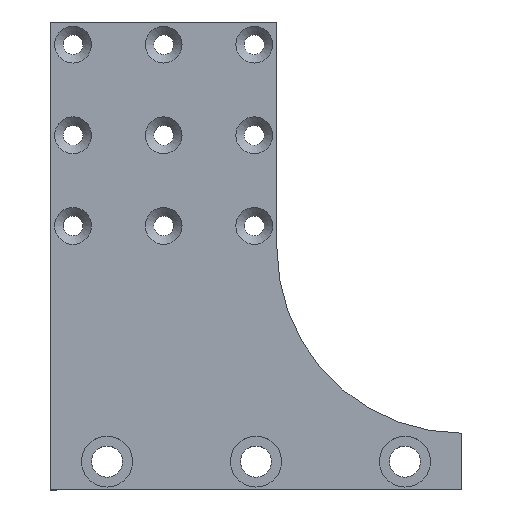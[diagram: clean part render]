
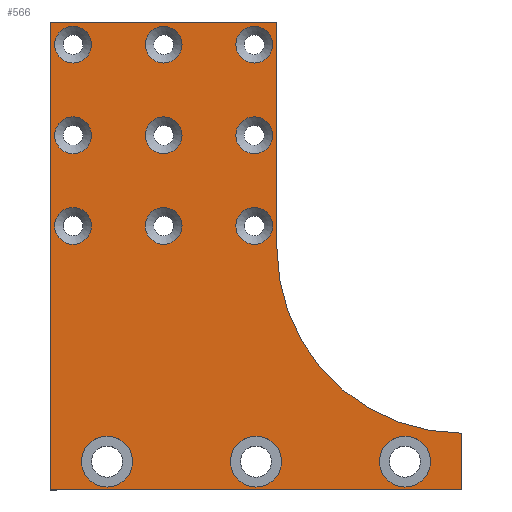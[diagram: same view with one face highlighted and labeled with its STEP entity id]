
A CAD part, top view. The second image highlights one B-rep face of the part: STEP entity #566.
In plain terms, the highlighted planar face has unit normal (0, 0, 1).
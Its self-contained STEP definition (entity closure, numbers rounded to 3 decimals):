
#15=LINE('',#913,#31);
#16=LINE('',#915,#32);
#17=LINE('',#917,#33);
#18=LINE('',#919,#34);
#19=LINE('',#922,#35);
#31=VECTOR('',#736,10.);
#32=VECTOR('',#737,10.);
#33=VECTOR('',#738,10.);
#34=VECTOR('',#739,10.);
#35=VECTOR('',#742,10.);
#63=FACE_BOUND('',#185,.T.);
#64=FACE_BOUND('',#186,.T.);
#65=FACE_BOUND('',#187,.T.);
#66=FACE_BOUND('',#188,.T.);
#67=FACE_BOUND('',#189,.T.);
#68=FACE_BOUND('',#190,.T.);
#69=FACE_BOUND('',#191,.T.);
#70=FACE_BOUND('',#192,.T.);
#71=FACE_BOUND('',#193,.T.);
#72=FACE_BOUND('',#194,.T.);
#73=FACE_BOUND('',#195,.T.);
#74=FACE_BOUND('',#196,.T.);
#138=FACE_OUTER_BOUND('',#184,.T.);
#184=EDGE_LOOP('',(#439,#440,#441,#442,#443,#444));
#185=EDGE_LOOP('',(#445));
#186=EDGE_LOOP('',(#446));
#187=EDGE_LOOP('',(#447));
#188=EDGE_LOOP('',(#448));
#189=EDGE_LOOP('',(#449));
#190=EDGE_LOOP('',(#450));
#191=EDGE_LOOP('',(#451));
#192=EDGE_LOOP('',(#452));
#193=EDGE_LOOP('',(#453));
#194=EDGE_LOOP('',(#454));
#195=EDGE_LOOP('',(#455));
#196=EDGE_LOOP('',(#456));
#264=CIRCLE('',#609,4.5);
#267=CIRCLE('',#614,4.5);
#270=CIRCLE('',#619,4.5);
#274=CIRCLE('',#625,3.25);
#275=CIRCLE('',#627,32.609);
#276=CIRCLE('',#628,3.25);
#277=CIRCLE('',#629,3.25);
#278=CIRCLE('',#630,3.25);
#279=CIRCLE('',#631,3.25);
#280=CIRCLE('',#632,3.25);
#281=CIRCLE('',#633,3.25);
#282=CIRCLE('',#634,3.25);
#283=CIRCLE('',#635,3.25);
#309=VERTEX_POINT('',#882);
#312=VERTEX_POINT('',#890);
#315=VERTEX_POINT('',#898);
#319=VERTEX_POINT('',#908);
#320=VERTEX_POINT('',#911);
#321=VERTEX_POINT('',#912);
#322=VERTEX_POINT('',#914);
#323=VERTEX_POINT('',#916);
#324=VERTEX_POINT('',#918);
#325=VERTEX_POINT('',#920);
#326=VERTEX_POINT('',#923);
#327=VERTEX_POINT('',#925);
#328=VERTEX_POINT('',#927);
#329=VERTEX_POINT('',#929);
#330=VERTEX_POINT('',#931);
#331=VERTEX_POINT('',#933);
#332=VERTEX_POINT('',#935);
#333=VERTEX_POINT('',#937);
#364=EDGE_CURVE('',#309,#309,#264,.T.);
#367=EDGE_CURVE('',#312,#312,#267,.T.);
#370=EDGE_CURVE('',#315,#315,#270,.T.);
#374=EDGE_CURVE('',#319,#319,#274,.T.);
#375=EDGE_CURVE('',#320,#321,#15,.T.);
#376=EDGE_CURVE('',#321,#322,#16,.T.);
#377=EDGE_CURVE('',#322,#323,#17,.T.);
#378=EDGE_CURVE('',#323,#324,#18,.T.);
#379=EDGE_CURVE('',#324,#325,#275,.T.);
#380=EDGE_CURVE('',#325,#320,#19,.T.);
#381=EDGE_CURVE('',#326,#326,#276,.T.);
#382=EDGE_CURVE('',#327,#327,#277,.T.);
#383=EDGE_CURVE('',#328,#328,#278,.T.);
#384=EDGE_CURVE('',#329,#329,#279,.T.);
#385=EDGE_CURVE('',#330,#330,#280,.T.);
#386=EDGE_CURVE('',#331,#331,#281,.T.);
#387=EDGE_CURVE('',#332,#332,#282,.T.);
#388=EDGE_CURVE('',#333,#333,#283,.T.);
#439=ORIENTED_EDGE('',*,*,#375,.T.);
#440=ORIENTED_EDGE('',*,*,#376,.T.);
#441=ORIENTED_EDGE('',*,*,#377,.T.);
#442=ORIENTED_EDGE('',*,*,#378,.T.);
#443=ORIENTED_EDGE('',*,*,#379,.T.);
#444=ORIENTED_EDGE('',*,*,#380,.T.);
#445=ORIENTED_EDGE('',*,*,#364,.T.);
#446=ORIENTED_EDGE('',*,*,#367,.T.);
#447=ORIENTED_EDGE('',*,*,#370,.T.);
#448=ORIENTED_EDGE('',*,*,#381,.F.);
#449=ORIENTED_EDGE('',*,*,#382,.F.);
#450=ORIENTED_EDGE('',*,*,#383,.F.);
#451=ORIENTED_EDGE('',*,*,#384,.F.);
#452=ORIENTED_EDGE('',*,*,#385,.F.);
#453=ORIENTED_EDGE('',*,*,#386,.F.);
#454=ORIENTED_EDGE('',*,*,#387,.F.);
#455=ORIENTED_EDGE('',*,*,#388,.F.);
#456=ORIENTED_EDGE('',*,*,#374,.F.);
#550=PLANE('',#626);
#566=ADVANCED_FACE('',(#138,#63,#64,#65,#66,#67,#68,#69,#70,#71,#72,#73,
#74),#550,.T.);
#609=AXIS2_PLACEMENT_3D('',#883,#700,#701);
#614=AXIS2_PLACEMENT_3D('',#891,#710,#711);
#619=AXIS2_PLACEMENT_3D('',#899,#720,#721);
#625=AXIS2_PLACEMENT_3D('',#909,#732,#733);
#626=AXIS2_PLACEMENT_3D('',#910,#734,#735);
#627=AXIS2_PLACEMENT_3D('',#921,#740,#741);
#628=AXIS2_PLACEMENT_3D('',#924,#743,#744);
#629=AXIS2_PLACEMENT_3D('',#926,#745,#746);
#630=AXIS2_PLACEMENT_3D('',#928,#747,#748);
#631=AXIS2_PLACEMENT_3D('',#930,#749,#750);
#632=AXIS2_PLACEMENT_3D('',#932,#751,#752);
#633=AXIS2_PLACEMENT_3D('',#934,#753,#754);
#634=AXIS2_PLACEMENT_3D('',#936,#755,#756);
#635=AXIS2_PLACEMENT_3D('',#938,#757,#758);
#700=DIRECTION('center_axis',(0.,0.,-1.));
#701=DIRECTION('ref_axis',(1.,0.,0.));
#710=DIRECTION('center_axis',(0.,0.,-1.));
#711=DIRECTION('ref_axis',(1.,0.,0.));
#720=DIRECTION('center_axis',(0.,0.,-1.));
#721=DIRECTION('ref_axis',(1.,0.,0.));
#732=DIRECTION('center_axis',(0.,0.,1.));
#733=DIRECTION('ref_axis',(-1.,0.,0.));
#734=DIRECTION('center_axis',(0.,0.,1.));
#735=DIRECTION('ref_axis',(1.,0.,0.));
#736=DIRECTION('',(-1.,0.,0.));
#737=DIRECTION('',(0.,-1.,0.));
#738=DIRECTION('',(1.,0.,0.));
#739=DIRECTION('',(0.,1.,0.));
#740=DIRECTION('center_axis',(0.,0.,-1.));
#741=DIRECTION('ref_axis',(1.,0.,0.));
#742=DIRECTION('',(0.,1.,0.));
#743=DIRECTION('center_axis',(0.,0.,1.));
#744=DIRECTION('ref_axis',(-1.,0.,0.));
#745=DIRECTION('center_axis',(0.,0.,1.));
#746=DIRECTION('ref_axis',(-1.,0.,0.));
#747=DIRECTION('center_axis',(0.,0.,1.));
#748=DIRECTION('ref_axis',(-1.,0.,0.));
#749=DIRECTION('center_axis',(0.,0.,1.));
#750=DIRECTION('ref_axis',(-1.,0.,0.));
#751=DIRECTION('center_axis',(0.,0.,1.));
#752=DIRECTION('ref_axis',(-1.,0.,0.));
#753=DIRECTION('center_axis',(0.,0.,1.));
#754=DIRECTION('ref_axis',(-1.,0.,0.));
#755=DIRECTION('center_axis',(0.,0.,1.));
#756=DIRECTION('ref_axis',(-1.,0.,0.));
#757=DIRECTION('center_axis',(0.,0.,1.));
#758=DIRECTION('ref_axis',(-1.,0.,0.));
#882=CARTESIAN_POINT('',(47.109,-57.609,15.));
#883=CARTESIAN_POINT('Origin',(42.609,-57.609,15.));
#890=CARTESIAN_POINT('',(20.804,-57.609,15.));
#891=CARTESIAN_POINT('Origin',(16.304,-57.609,15.));
#898=CARTESIAN_POINT('',(-5.5,-57.609,15.));
#899=CARTESIAN_POINT('Origin',(-10.,-57.609,15.));
#908=CARTESIAN_POINT('',(-12.75,-16.,15.));
#909=CARTESIAN_POINT('Origin',(-16.,-16.,15.));
#910=CARTESIAN_POINT('Origin',(7.338,-26.964,15.));
#911=CARTESIAN_POINT('',(20.,20.,15.));
#912=CARTESIAN_POINT('',(-20.,20.,15.));
#913=CARTESIAN_POINT('',(20.,20.,15.));
#914=CARTESIAN_POINT('',(-20.,-62.609,15.));
#915=CARTESIAN_POINT('',(-20.,20.,15.));
#916=CARTESIAN_POINT('',(52.609,-62.609,15.));
#917=CARTESIAN_POINT('',(-20.,-62.609,15.));
#918=CARTESIAN_POINT('',(52.609,-52.609,15.));
#919=CARTESIAN_POINT('',(52.609,-62.609,15.));
#920=CARTESIAN_POINT('',(20.,-20.,15.));
#921=CARTESIAN_POINT('Origin',(52.609,-20.,15.));
#922=CARTESIAN_POINT('',(20.,-20.,15.));
#923=CARTESIAN_POINT('',(3.25,-16.,15.));
#924=CARTESIAN_POINT('Origin',(0.,-16.,15.));
#925=CARTESIAN_POINT('',(19.25,0.,15.));
#926=CARTESIAN_POINT('Origin',(16.,0.,15.));
#927=CARTESIAN_POINT('',(-12.75,0.,15.));
#928=CARTESIAN_POINT('Origin',(-16.,0.,
15.));
#929=CARTESIAN_POINT('',(3.25,16.,15.));
#930=CARTESIAN_POINT('Origin',(0.,16.,15.));
#931=CARTESIAN_POINT('',(-12.75,16.,15.));
#932=CARTESIAN_POINT('Origin',(-16.,16.,15.));
#933=CARTESIAN_POINT('',(19.25,16.,15.));
#934=CARTESIAN_POINT('Origin',(16.,16.,15.));
#935=CARTESIAN_POINT('',(3.25,0.,15.));
#936=CARTESIAN_POINT('Origin',(0.,0.,
15.));
#937=CARTESIAN_POINT('',(19.25,-16.,15.));
#938=CARTESIAN_POINT('Origin',(16.,-16.,15.));
